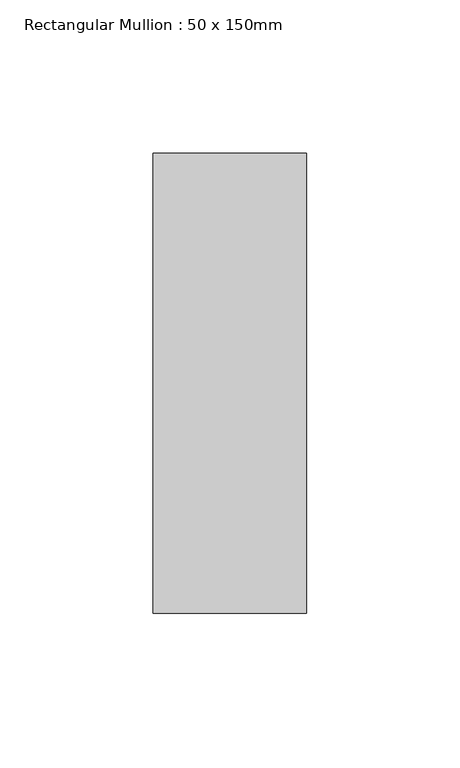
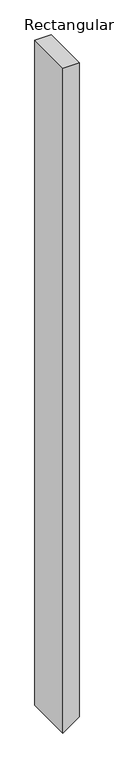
"""IFC4 building model written with IfcOpenShell, lengths in millimetres: member geometry, Rectangular Mullion : 50 x 150mm."""

from ifc_helpers import new_model, si_unit, frame, origin, place, context, project, spatial, polyline, outline, extrude, source, transform, mapped, element, save


def rectangular_mullion_50_x_150mm_28d32c51(model_context):
    return source(origin(), model_context, "Body", "SweptSolid", [
        extrude(outline(polyline([(0.0, 25.0), (0.0, -25.0), (-2176.7376908, -25.0), (-2141.2931135, 25.0), (0.0, 25.0)])), frame((0.0, -75.0, 0.0), z_axis=(0.0, 1.0, 0.0), x_axis=(0.0, 0.0, 1.0)), (0.0, 0.0, 1.0), 150.0),
    ])


if __name__ == "__main__":
    model = new_model("IFC4")
    model_context = context("Model", 3, world=origin())
    ifc_project = project(units=[si_unit("LENGTHUNIT", "METRE", prefix="MILLI")], contexts=[model_context])
    site = spatial("IfcSite", under=ifc_project)
    building = spatial("IfcBuilding", under=site)
    placement = place(None, origin())
    rectangular_mullion_50_x_150mm_shape = rectangular_mullion_50_x_150mm_28d32c51(model_context)
    element("IfcMember", 1, ObjectType="Rectangular Mullion : 50 x 150mm", at=placement, inside=building, context=model_context, shape_type="MappedRepresentation", body=[
        mapped(rectangular_mullion_50_x_150mm_shape, transform((0.0, 0.0, 0.0), x_axis=(1.0, 0.0, 0.0), y_axis=(0.0, 1.0, 0.0), z_axis=(0.0, 0.0, 1.0))),
    ])
    save(model, "model.ifc")
